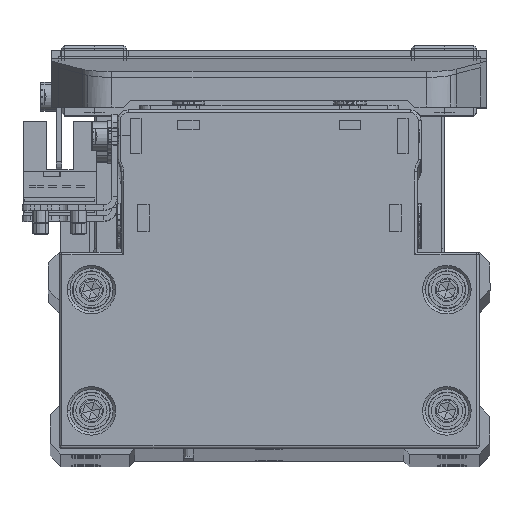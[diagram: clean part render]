
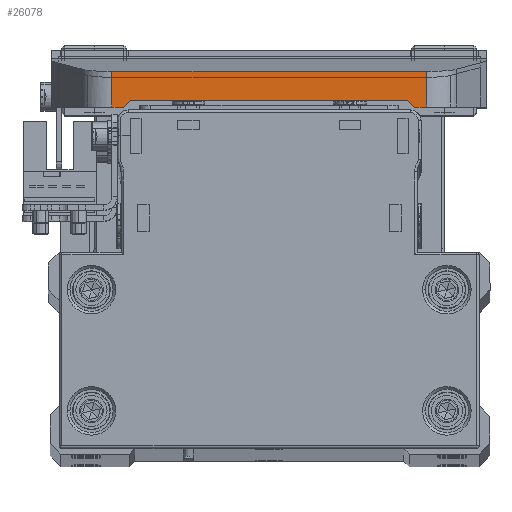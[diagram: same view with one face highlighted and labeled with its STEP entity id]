
A CAD part, top view. The second image highlights one B-rep face of the part: STEP entity #26078.
In plain terms, the highlighted planar face has unit normal (0, 0, 1) as drawn and (-1, 0, 0) by its records, which use the part's own axes.
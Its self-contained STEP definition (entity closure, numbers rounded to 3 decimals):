
#623 = VERTEX_POINT ( 'NONE', #18287 ) ;
#1283 = PLANE ( 'NONE',  #34924 ) ;
#1378 = VECTOR ( 'NONE', #37607, 1000. ) ;
#2206 = LINE ( 'NONE', #14649, #20172 ) ;
#2711 = VERTEX_POINT ( 'NONE', #39630 ) ;
#3817 = EDGE_CURVE ( 'NONE', #623, #11874, #6853, .T. ) ;
#6113 = ORIENTED_EDGE ( 'NONE', *, *, #31966, .T. ) ;
#6432 = EDGE_CURVE ( 'NONE', #7447, #6736, #28532, .T. ) ;
#6736 = VERTEX_POINT ( 'NONE', #27275 ) ;
#6853 = LINE ( 'NONE', #19297, #18314 ) ;
#7447 = VERTEX_POINT ( 'NONE', #39243 ) ;
#7560 = LINE ( 'NONE', #20000, #16065 ) ;
#8745 = EDGE_CURVE ( 'NONE', #14557, #7447, #38438, .T. ) ;
#9489 = LINE ( 'NONE', #21941, #14571 ) ;
#9961 = DIRECTION ( 'NONE',  ( 0., 0., -1. ) ) ;
#10401 = ORIENTED_EDGE ( 'NONE', *, *, #28957, .T. ) ;
#10489 = CARTESIAN_POINT ( 'NONE',  ( -67.5, 10.6, 27. ) ) ;
#10638 = ORIENTED_EDGE ( 'NONE', *, *, #17054, .F. ) ;
#10770 = CARTESIAN_POINT ( 'NONE',  ( -67.5, 10.6, 27. ) ) ;
#10868 = LINE ( 'NONE', #23310, #11038 ) ;
#11038 = VECTOR ( 'NONE', #35759, 1000. ) ;
#11562 = EDGE_CURVE ( 'NONE', #2711, #39502, #7560, .T. ) ;
#11874 = VERTEX_POINT ( 'NONE', #31924 ) ;
#12705 = LINE ( 'NONE', #25158, #1378 ) ;
#13724 = CARTESIAN_POINT ( 'NONE',  ( -67.5, 10.6, 40.4 ) ) ;
#14557 = VERTEX_POINT ( 'NONE', #10770 ) ;
#14571 = VECTOR ( 'NONE', #34391, 1000. ) ;
#14649 = CARTESIAN_POINT ( 'NONE',  ( -67.5, 4., -29.225 ) ) ;
#15572 = EDGE_CURVE ( 'NONE', #6736, #2711, #12705, .T. ) ;
#16065 = VECTOR ( 'NONE', #32427, 1000. ) ;
#16313 = CARTESIAN_POINT ( 'NONE',  ( -67.5, 4., -29.225 ) ) ;
#17054 = EDGE_CURVE ( 'NONE', #623, #29919, #10868, .T. ) ;
#18287 = CARTESIAN_POINT ( 'NONE',  ( -67.5, 4., 29.225 ) ) ;
#18314 = VECTOR ( 'NONE', #31725, 1000. ) ;
#18854 = EDGE_LOOP ( 'NONE', ( #34696, #31013, #26116, #6113, #10638, #35457, #10401, #29240 ) ) ;
#19297 = CARTESIAN_POINT ( 'NONE',  ( -67.5, 10.6, 29.225 ) ) ;
#20000 = CARTESIAN_POINT ( 'NONE',  ( -67.5, 10.6, 40.4 ) ) ;
#20172 = VECTOR ( 'NONE', #27086, 1000. ) ;
#21941 = CARTESIAN_POINT ( 'NONE',  ( -67.5, 10.6, 40.4 ) ) ;
#22522 = VECTOR ( 'NONE', #9961, 1000. ) ;
#22940 = DIRECTION ( 'NONE',  ( 0., -0.655, -0.756 ) ) ;
#23310 = CARTESIAN_POINT ( 'NONE',  ( -67.5, 4., 40.4 ) ) ;
#24238 = CARTESIAN_POINT ( 'NONE',  ( -67.5, 10.6, -29.225 ) ) ;
#25158 = CARTESIAN_POINT ( 'NONE',  ( -67.5, 10.6, -27. ) ) ;
#26078 = ADVANCED_FACE ( 'NONE', ( #29225 ), #1283, .F. ) ;
#26116 = ORIENTED_EDGE ( 'NONE', *, *, #11562, .T. ) ;
#26173 = DIRECTION ( 'NONE',  ( 1., 0., 0. ) ) ;
#27086 = DIRECTION ( 'NONE',  ( 0., -1., 0. ) ) ;
#27275 = CARTESIAN_POINT ( 'NONE',  ( -67.5, 9.3, -25.5 ) ) ;
#28532 = LINE ( 'NONE', #37914, #22522 ) ;
#28957 = EDGE_CURVE ( 'NONE', #11874, #14557, #9489, .T. ) ;
#29225 = FACE_OUTER_BOUND ( 'NONE', #18854, .T. ) ;
#29240 = ORIENTED_EDGE ( 'NONE', *, *, #8745, .T. ) ;
#29919 = VERTEX_POINT ( 'NONE', #16313 ) ;
#31013 = ORIENTED_EDGE ( 'NONE', *, *, #15572, .T. ) ;
#31725 = DIRECTION ( 'NONE',  ( 0., 1., 0. ) ) ;
#31924 = CARTESIAN_POINT ( 'NONE',  ( -67.5, 10.6, 29.225 ) ) ;
#31966 = EDGE_CURVE ( 'NONE', #39502, #29919, #2206, .T. ) ;
#32427 = DIRECTION ( 'NONE',  ( 0., 0., -1. ) ) ;
#34391 = DIRECTION ( 'NONE',  ( 0., 0., -1. ) ) ;
#34696 = ORIENTED_EDGE ( 'NONE', *, *, #6432, .T. ) ;
#34924 = AXIS2_PLACEMENT_3D ( 'NONE', #13724, #26173, #38616 ) ;
#35457 = ORIENTED_EDGE ( 'NONE', *, *, #3817, .T. ) ;
#35759 = DIRECTION ( 'NONE',  ( 0., 0., -1. ) ) ;
#36692 = VECTOR ( 'NONE', #22940, 1000. ) ;
#37607 = DIRECTION ( 'NONE',  ( 0., 0.655, -0.756 ) ) ;
#37914 = CARTESIAN_POINT ( 'NONE',  ( -67.5, 9.3, 25.5 ) ) ;
#38438 = LINE ( 'NONE', #10489, #36692 ) ;
#38616 = DIRECTION ( 'NONE',  ( 0., 0., -1. ) ) ;
#39243 = CARTESIAN_POINT ( 'NONE',  ( -67.5, 9.3, 25.5 ) ) ;
#39502 = VERTEX_POINT ( 'NONE', #24238 ) ;
#39630 = CARTESIAN_POINT ( 'NONE',  ( -67.5, 10.6, -27. ) ) ;
